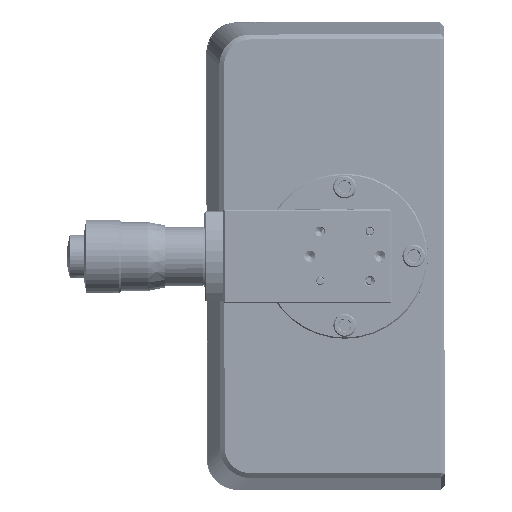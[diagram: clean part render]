
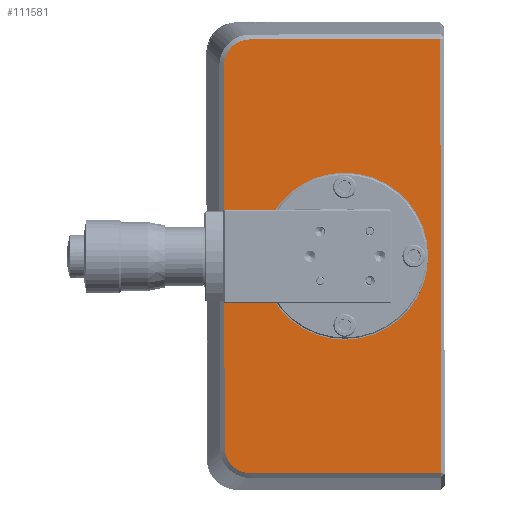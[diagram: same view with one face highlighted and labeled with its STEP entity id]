
A CAD part, left-side view. The second image highlights one B-rep face of the part: STEP entity #111581.
In plain terms, the highlighted planar face has unit normal (-1, -0.002, -0.001).
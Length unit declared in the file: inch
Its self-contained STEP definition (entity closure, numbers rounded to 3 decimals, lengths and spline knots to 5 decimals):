
#1921 = CARTESIAN_POINT ( 'NONE',  ( -0.09514, -6.84099, 0.42257 ) ) ;
#2670 = CARTESIAN_POINT ( 'NONE',  ( -0.09335, -7.62602, -0.64649 ) ) ;
#13696 = VECTOR ( 'NONE', #41272, 39.37008 ) ;
#15158 = CARTESIAN_POINT ( 'NONE',  ( -0.09346, -6.7675, -3.03145 ) ) ;
#19300 = DIRECTION ( 'NONE',  ( 0.001, -0.001, -1. ) ) ;
#25069 = DIRECTION ( 'NONE',  ( 0.002, -1., 0.001 ) ) ;
#33079 = VERTEX_POINT ( 'NONE', #2670 ) ;
#33750 = ORIENTED_EDGE ( 'NONE', *, *, #37831, .T. ) ;
#35350 = CARTESIAN_POINT ( 'NONE',  ( -0.09271, -8.39463, 0.42459 ) ) ;
#37831 = EDGE_CURVE ( 'NONE', #55993, #106051, #86539, .T. ) ;
#40347 = AXIS2_PLACEMENT_3D ( 'NONE', #209155, #277506, #100909 ) ;
#40785 = EDGE_LOOP ( 'NONE', ( #138182, #72894, #269265, #214030, #33750, #65583 ) ) ;
#41272 = DIRECTION ( 'NONE',  ( 0.001, -0.001, -1. ) ) ;
#41776 = CARTESIAN_POINT ( 'NONE',  ( -0.09332, -6.84545, -3.05758 ) ) ;
#43596 = CARTESIAN_POINT ( 'NONE',  ( -0.09532, -6.68593, 0.31891 ) ) ;
#50850 = VERTEX_POINT ( 'NONE', #127683 ) ;
#53453 = ORIENTED_EDGE ( 'NONE', *, *, #281118, .F. ) ;
#55993 = VERTEX_POINT ( 'NONE', #204327 ) ;
#57643 = EDGE_CURVE ( 'NONE', #33079, #220474, #173075, .T. ) ;
#61212 = CARTESIAN_POINT ( 'NONE',  ( -0.0937, -6.66383, -2.87638 ) ) ;
#63766 = DIRECTION ( 'NONE',  ( -0.001, 0.001, 1. ) ) ;
#63872 = DIRECTION ( 'NONE',  ( 1., 0.002, 0.001 ) ) ;
#65583 = ORIENTED_EDGE ( 'NONE', *, *, #220814, .T. ) ;
#71767 = CARTESIAN_POINT ( 'NONE',  ( -0.09509, -6.86848, 0.42261 ) ) ;
#72894 = ORIENTED_EDGE ( 'NONE', *, *, #293425, .T. ) ;
#75432 = EDGE_CURVE ( 'NONE', #275095, #131289, #262029, .T. ) ;
#86204 = CARTESIAN_POINT ( 'NONE',  ( -0.09266, -7.62776, -1.98649 ) ) ;
#86539 = B_SPLINE_CURVE_WITH_KNOTS ( 'NONE', 3,
 ( #71767, #1921, #291380, #183090, #273525, #246861, #43596, #134123, #224560, #111875 ),
 .UNSPECIFIED., .F., .F.,
 ( 4, 2, 2, 2, 4 ),
 ( 0., 0.25, 0.5, 0.75, 1. ),
 .UNSPECIFIED. ) ;
#87488 = DIRECTION ( 'NONE',  ( -1., -0.002, -0.001 ) ) ;
#94141 = VECTOR ( 'NONE', #191999, 39.37008 ) ;
#94816 = LINE ( 'NONE', #137920, #157220 ) ;
#100909 = DIRECTION ( 'NONE',  ( -0.001, 0.001, 1. ) ) ;
#101109 = PLANE ( 'NONE',  #245541 ) ;
#104027 = FACE_OUTER_BOUND ( 'NONE', #40785, .T. ) ;
#106051 = VERTEX_POINT ( 'NONE', #114046 ) ;
#109607 = LINE ( 'NONE', #128888, #13696 ) ;
#111581 = ADVANCED_FACE ( 'NONE', ( #104027, #170890 ), #101109, .F. ) ;
#111875 = CARTESIAN_POINT ( 'NONE',  ( -0.09531, -6.65983, 0.21342 ) ) ;
#114046 = CARTESIAN_POINT ( 'NONE',  ( -0.09531, -6.65983, 0.21342 ) ) ;
#115959 = VERTEX_POINT ( 'NONE', #35350 ) ;
#124105 = EDGE_CURVE ( 'NONE', #115959, #55993, #212256, .T. ) ;
#126962 = CARTESIAN_POINT ( 'NONE',  ( -0.09372, -6.6638, -2.8489 ) ) ;
#127683 = CARTESIAN_POINT ( 'NONE',  ( -0.09089, -8.39914, -3.05557 ) ) ;
#127968 = CARTESIAN_POINT ( 'NONE',  ( -0.09372, -6.6638, -2.8489 ) ) ;
#128888 = CARTESIAN_POINT ( 'NONE',  ( -0.09451, -6.66181, -1.31774 ) ) ;
#130750 = CARTESIAN_POINT ( 'NONE',  ( -0.09328, -6.87299, -3.05755 ) ) ;
#131289 = VERTEX_POINT ( 'NONE', #130750 ) ;
#134123 = CARTESIAN_POINT ( 'NONE',  ( -0.09533, -6.66519, 0.26841 ) ) ;
#137920 = CARTESIAN_POINT ( 'NONE',  ( -0.09233, -7.47915, -3.05676 ) ) ;
#138182 = ORIENTED_EDGE ( 'NONE', *, *, #75432, .T. ) ;
#151756 = CARTESIAN_POINT ( 'NONE',  ( -0.09358, -6.70569, -2.97754 ) ) ;
#152980 = CARTESIAN_POINT ( 'NONE',  ( -0.09324, -7.47689, -1.31668 ) ) ;
#153240 = CARTESIAN_POINT ( 'NONE',  ( -0.09328, -6.87299, -3.05755 ) ) ;
#156449 = EDGE_LOOP ( 'NONE', ( #237339, #53453 ) ) ;
#157220 = VECTOR ( 'NONE', #25069, 39.37008 ) ;
#165262 = VECTOR ( 'NONE', #282082, 39.37008 ) ;
#170890 = FACE_BOUND ( 'NONE', #156449, .T. ) ;
#173075 = CIRCLE ( 'NONE', #40347, 0.67 ) ;
#183090 = CARTESIAN_POINT ( 'NONE',  ( -0.09524, -6.76305, 0.39624 ) ) ;
#191579 = CARTESIAN_POINT ( 'NONE',  ( -0.09414, -7.47463, 0.42339 ) ) ;
#191999 = DIRECTION ( 'NONE',  ( -0.001, 0.001, 1. ) ) ;
#196192 = CARTESIAN_POINT ( 'NONE',  ( -0.09337, -6.81799, -3.05219 ) ) ;
#204327 = CARTESIAN_POINT ( 'NONE',  ( -0.09509, -6.86848, 0.42261 ) ) ;
#209155 = CARTESIAN_POINT ( 'NONE',  ( -0.093, -7.62689, -1.31649 ) ) ;
#212256 = LINE ( 'NONE', #191579, #165262 ) ;
#214030 = ORIENTED_EDGE ( 'NONE', *, *, #124105, .T. ) ;
#218381 = CARTESIAN_POINT ( 'NONE',  ( -0.09368, -6.6693, -2.90388 ) ) ;
#220474 = VERTEX_POINT ( 'NONE', #86204 ) ;
#220814 = EDGE_CURVE ( 'NONE', #106051, #275095, #109607, .T. ) ;
#224560 = CARTESIAN_POINT ( 'NONE',  ( -0.09532, -6.65979, 0.24096 ) ) ;
#234632 = AXIS2_PLACEMENT_3D ( 'NONE', #250632, #87488, #63766 ) ;
#237339 = ORIENTED_EDGE ( 'NONE', *, *, #57643, .F. ) ;
#245541 = AXIS2_PLACEMENT_3D ( 'NONE', #152980, #63872, #19300 ) ;
#246861 = CARTESIAN_POINT ( 'NONE',  ( -0.09531, -6.70138, 0.34217 ) ) ;
#247959 = EDGE_CURVE ( 'NONE', #50850, #115959, #281057, .T. ) ;
#250632 = CARTESIAN_POINT ( 'NONE',  ( -0.093, -7.62689, -1.31649 ) ) ;
#258729 = CARTESIAN_POINT ( 'NONE',  ( -0.0918, -8.39689, -1.31549 ) ) ;
#262029 = B_SPLINE_CURVE_WITH_KNOTS ( 'NONE', 3,
 ( #127968, #61212, #218381, #288148, #151756, #262944, #15158, #196192, #41776, #153240 ),
 .UNSPECIFIED., .F., .F.,
 ( 4, 2, 2, 2, 4 ),
 ( 0., 0.25, 0.5, 0.75, 1. ),
 .UNSPECIFIED. ) ;
#262944 = CARTESIAN_POINT ( 'NONE',  ( -0.0935, -6.74424, -3.01599 ) ) ;
#267799 = CIRCLE ( 'NONE', #234632, 0.67 ) ;
#269265 = ORIENTED_EDGE ( 'NONE', *, *, #247959, .T. ) ;
#273525 = CARTESIAN_POINT ( 'NONE',  ( -0.09527, -6.73984, 0.38072 ) ) ;
#275095 = VERTEX_POINT ( 'NONE', #126962 ) ;
#277506 = DIRECTION ( 'NONE',  ( -1., -0.002, -0.001 ) ) ;
#281057 = LINE ( 'NONE', #258729, #94141 ) ;
#281118 = EDGE_CURVE ( 'NONE', #220474, #33079, #267799, .T. ) ;
#282082 = DIRECTION ( 'NONE',  ( -0.002, 1., -0.001 ) ) ;
#288148 = CARTESIAN_POINT ( 'NONE',  ( -0.09362, -6.69017, -2.95432 ) ) ;
#291380 = CARTESIAN_POINT ( 'NONE',  ( -0.09518, -6.8135, 0.4171 ) ) ;
#293425 = EDGE_CURVE ( 'NONE', #131289, #50850, #94816, .T. ) ;
